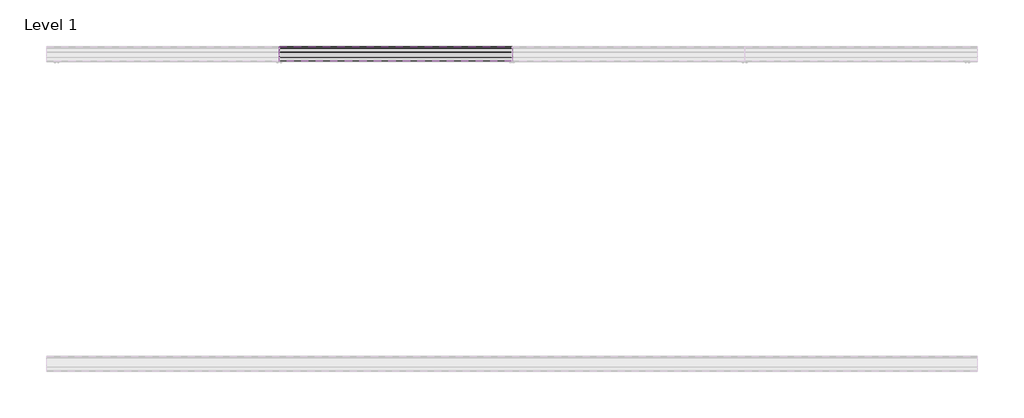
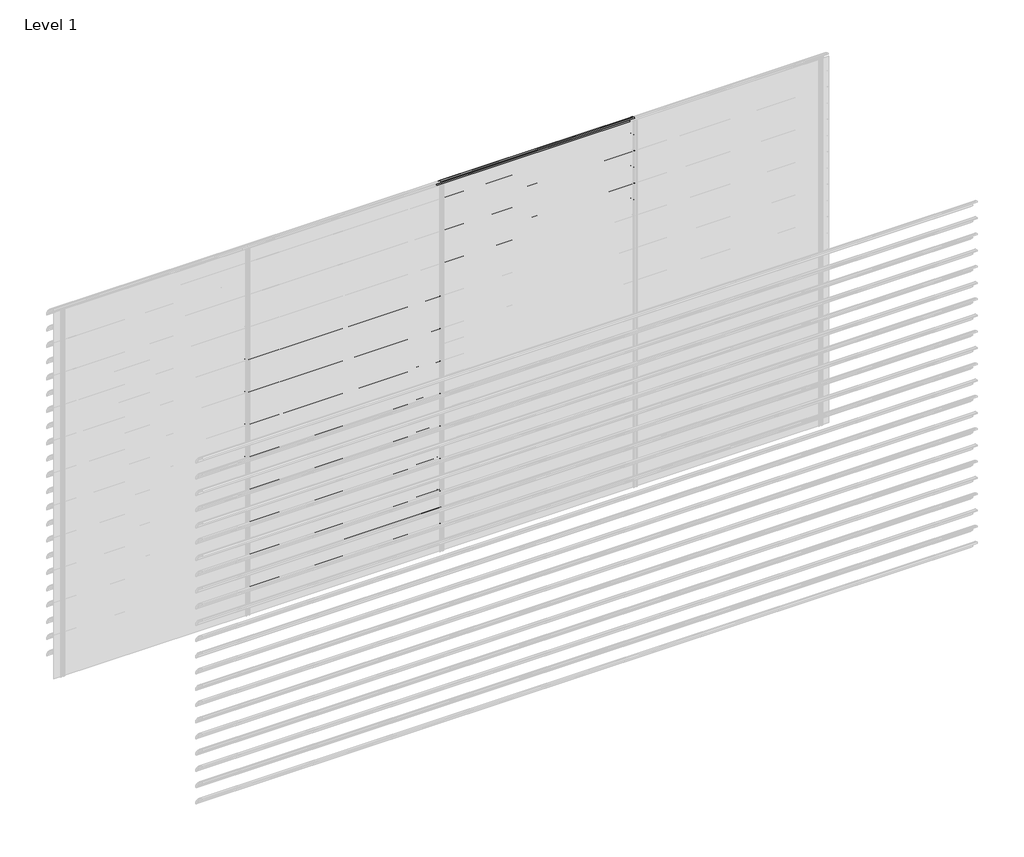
# One storey, part 55 of 57: 21 proxies.
"""IFC4 building model written with IfcOpenShell, lengths in millimetres."""

from ifc_helpers import new_model, si_unit, point, frame, frame_2d, origin, place, context, project, spatial, polyline, circle_curve, trimmed, segment, composite_curve, outline, extrude, element, save

model = new_model("IFC4")

# Units and contexts
model_context = context("Model", 3, world=origin())
ifc_project = project(units=[si_unit("LENGTHUNIT", "METRE", prefix="MILLI")], contexts=[model_context])

# Site, building, storey
site = spatial("IfcSite", under=ifc_project)
building = spatial("IfcBuilding", under=site)
storey = spatial("IfcBuildingStorey", under=building, Name="Level 1", Elevation=0.0)

# Proxies
placement = place(None, origin())
element("IfcBuildingElementProxy", 1, Name="Wall Sweeps", at=placement, inside=storey, context=model_context, shape_type="SweptSolid", body=[
    extrude(outline(composite_curve([segment(trimmed(circle_curve(frame_2d((6.2177474, 2085.4913792)), 4.2177474), [point((10.3014394, 2086.5462976))], [point((6.2177474, 2089.7091266))], False, "CARTESIAN"), True, "CONTINUOUS"), segment(trimmed(circle_curve(frame_2d((-18.7150834, 1987.2536312)), 105.4456002), [point((6.2177474, 2089.7091266))], [point((28.2085702, 2081.6832099))], False, "CARTESIAN"), True, "CONTINUOUS"), segment(trimmed(circle_curve(frame_2d((-61.7199745, 1933.0352476)), 173.7335887), [point((28.2085702, 2081.6832099))], [point((86.9279879, 2022.9637922))], False, "CARTESIAN"), True, "CONTINUOUS"), segment(trimmed(circle_curve(frame_2d((-4.9297178, 1971.1860314)), 105.4456002), [point((86.9279879, 2022.9637922))], [point((96.3750384, 2000.4455765))], False, "CARTESIAN"), True, "CONTINUOUS"), segment(trimmed(circle_curve(frame_2d((92.190263, 1999.3307305)), 4.3307305), [point((96.3750384, 2000.4455765))], [point((90.9230804, 1995.189538))], False, "CARTESIAN"), True, "CONTINUOUS"), segment(polyline([(90.9230804, 1995.189538), (65.2598016, 2019.9722783)]), True, "CONTINUOUS"), segment(trimmed(circle_curve(frame_2d((68.6120426, 2022.2977626)), 4.079877), [point((65.2598016, 2019.9722783))], [point((69.2689403, 2026.3244091))], False, "CARTESIAN"), True, "CONTINUOUS"), segment(trimmed(circle_curve(frame_2d((-14.6665585, 2004.2544323)), 86.7885467), [point((69.2689403, 2026.3244091))], [point((57.6971649, 2052.1683485))], True, "CARTESIAN"), True, "CONTINUOUS"), segment(polyline([(57.6971649, 2052.1683485), (59.2769901, 2054.9046861)]), True, "CONTINUOUS"), segment(trimmed(circle_curve(frame_2d((-61.7199745, 1933.0352476)), 171.7335887), [point((59.2769901, 2054.9046861))], [point((27.2444128, 2079.9289618))], True, "CARTESIAN"), True, "CONTINUOUS"), segment(trimmed(circle_curve(frame_2d((-18.7150834, 1987.2536312)), 103.4456002), [point((27.2444128, 2079.9289618))], [point((10.3014394, 2086.5462976))], True, "CARTESIAN"), True, "CONTINUOUS")], self_intersect=False)), frame((1500.0, 0.0, 0.0), z_axis=(1.0, 0.0, 0.0), x_axis=(0.0, 1.0, 0.0)), (0.0, 0.0, 1.0), 1500.0),
])
element("IfcBuildingElementProxy", 2, Name="Wall Sweeps", at=placement, inside=storey, context=model_context, shape_type="SweptSolid", body=[
    extrude(outline(composite_curve([segment(trimmed(circle_curve(frame_2d((6.2177474, 1952.4913792)), 4.2177474), [point((10.3014394, 1953.5462976))], [point((6.2177474, 1956.7091266))], False, "CARTESIAN"), True, "CONTINUOUS"), segment(trimmed(circle_curve(frame_2d((-18.7150834, 1854.2536312)), 105.4456002), [point((6.2177474, 1956.7091266))], [point((28.2085702, 1948.6832099))], False, "CARTESIAN"), True, "CONTINUOUS"), segment(trimmed(circle_curve(frame_2d((-61.7199745, 1800.0352476)), 173.7335887), [point((28.2085702, 1948.6832099))], [point((86.9279879, 1889.9637922))], False, "CARTESIAN"), True, "CONTINUOUS"), segment(trimmed(circle_curve(frame_2d((-4.9297178, 1838.1860314)), 105.4456002), [point((86.9279879, 1889.9637922))], [point((96.3750384, 1867.4455765))], False, "CARTESIAN"), True, "CONTINUOUS"), segment(trimmed(circle_curve(frame_2d((92.190263, 1866.3307305)), 4.3307305), [point((96.3750384, 1867.4455765))], [point((90.9230804, 1862.189538))], False, "CARTESIAN"), True, "CONTINUOUS"), segment(polyline([(90.9230804, 1862.189538), (65.2598016, 1886.9722783)]), True, "CONTINUOUS"), segment(trimmed(circle_curve(frame_2d((68.6120426, 1889.2977626)), 4.079877), [point((65.2598016, 1886.9722783))], [point((69.2689403, 1893.3244091))], False, "CARTESIAN"), True, "CONTINUOUS"), segment(trimmed(circle_curve(frame_2d((-14.6665585, 1871.2544323)), 86.7885467), [point((69.2689403, 1893.3244091))], [point((57.6971649, 1919.1683485))], True, "CARTESIAN"), True, "CONTINUOUS"), segment(polyline([(57.6971649, 1919.1683485), (59.2769901, 1921.9046861)]), True, "CONTINUOUS"), segment(trimmed(circle_curve(frame_2d((-61.7199745, 1800.0352476)), 171.7335887), [point((59.2769901, 1921.9046861))], [point((27.2444128, 1946.9289618))], True, "CARTESIAN"), True, "CONTINUOUS"), segment(trimmed(circle_curve(frame_2d((-18.7150834, 1854.2536312)), 103.4456002), [point((27.2444128, 1946.9289618))], [point((10.3014394, 1953.5462976))], True, "CARTESIAN"), True, "CONTINUOUS")], self_intersect=False)), frame((1500.0, 0.0, 0.0), z_axis=(1.0, 0.0, 0.0), x_axis=(0.0, 1.0, 0.0)), (0.0, 0.0, 1.0), 1500.0),
])
element("IfcBuildingElementProxy", 3, Name="Wall Sweeps", at=placement, inside=storey, context=model_context, shape_type="SweptSolid", body=[
    extrude(outline(composite_curve([segment(trimmed(circle_curve(frame_2d((6.2177474, 1819.4913792)), 4.2177474), [point((10.3014394, 1820.5462976))], [point((6.2177474, 1823.7091266))], False, "CARTESIAN"), True, "CONTINUOUS"), segment(trimmed(circle_curve(frame_2d((-18.7150834, 1721.2536312)), 105.4456002), [point((6.2177474, 1823.7091266))], [point((28.2085702, 1815.6832099))], False, "CARTESIAN"), True, "CONTINUOUS"), segment(trimmed(circle_curve(frame_2d((-61.7199745, 1667.0352476)), 173.7335887), [point((28.2085702, 1815.6832099))], [point((86.9279879, 1756.9637922))], False, "CARTESIAN"), True, "CONTINUOUS"), segment(trimmed(circle_curve(frame_2d((-4.9297178, 1705.1860314)), 105.4456002), [point((86.9279879, 1756.9637922))], [point((96.3750384, 1734.4455765))], False, "CARTESIAN"), True, "CONTINUOUS"), segment(trimmed(circle_curve(frame_2d((92.190263, 1733.3307305)), 4.3307305), [point((96.3750384, 1734.4455765))], [point((90.9230804, 1729.189538))], False, "CARTESIAN"), True, "CONTINUOUS"), segment(polyline([(90.9230804, 1729.189538), (65.2598016, 1753.9722783)]), True, "CONTINUOUS"), segment(trimmed(circle_curve(frame_2d((68.6120426, 1756.2977626)), 4.079877), [point((65.2598016, 1753.9722783))], [point((69.2689403, 1760.3244091))], False, "CARTESIAN"), True, "CONTINUOUS"), segment(trimmed(circle_curve(frame_2d((-14.6665585, 1738.2544323)), 86.7885467), [point((69.2689403, 1760.3244091))], [point((57.6971649, 1786.1683485))], True, "CARTESIAN"), True, "CONTINUOUS"), segment(polyline([(57.6971649, 1786.1683485), (59.2769901, 1788.9046861)]), True, "CONTINUOUS"), segment(trimmed(circle_curve(frame_2d((-61.7199745, 1667.0352476)), 171.7335887), [point((59.2769901, 1788.9046861))], [point((27.2444128, 1813.9289618))], True, "CARTESIAN"), True, "CONTINUOUS"), segment(trimmed(circle_curve(frame_2d((-18.7150834, 1721.2536312)), 103.4456002), [point((27.2444128, 1813.9289618))], [point((10.3014394, 1820.5462976))], True, "CARTESIAN"), True, "CONTINUOUS")], self_intersect=False)), frame((1500.0, 0.0, 0.0), z_axis=(1.0, 0.0, 0.0), x_axis=(0.0, 1.0, 0.0)), (0.0, 0.0, 1.0), 1500.0),
])
element("IfcBuildingElementProxy", 4, Name="Wall Sweeps", at=placement, inside=storey, context=model_context, shape_type="SweptSolid", body=[
    extrude(outline(composite_curve([segment(trimmed(circle_curve(frame_2d((6.2177474, 1686.4913792)), 4.2177474), [point((10.3014394, 1687.5462976))], [point((6.2177474, 1690.7091266))], False, "CARTESIAN"), True, "CONTINUOUS"), segment(trimmed(circle_curve(frame_2d((-18.7150834, 1588.2536312)), 105.4456002), [point((6.2177474, 1690.7091266))], [point((28.2085702, 1682.6832099))], False, "CARTESIAN"), True, "CONTINUOUS"), segment(trimmed(circle_curve(frame_2d((-61.7199745, 1534.0352476)), 173.7335887), [point((28.2085702, 1682.6832099))], [point((86.9279879, 1623.9637922))], False, "CARTESIAN"), True, "CONTINUOUS"), segment(trimmed(circle_curve(frame_2d((-4.9297178, 1572.1860314)), 105.4456002), [point((86.9279879, 1623.9637922))], [point((96.3750384, 1601.4455765))], False, "CARTESIAN"), True, "CONTINUOUS"), segment(trimmed(circle_curve(frame_2d((92.190263, 1600.3307305)), 4.3307305), [point((96.3750384, 1601.4455765))], [point((90.9230804, 1596.189538))], False, "CARTESIAN"), True, "CONTINUOUS"), segment(polyline([(90.9230804, 1596.189538), (65.2598016, 1620.9722783)]), True, "CONTINUOUS"), segment(trimmed(circle_curve(frame_2d((68.6120426, 1623.2977626)), 4.079877), [point((65.2598016, 1620.9722783))], [point((69.2689403, 1627.3244091))], False, "CARTESIAN"), True, "CONTINUOUS"), segment(trimmed(circle_curve(frame_2d((-14.6665585, 1605.2544323)), 86.7885467), [point((69.2689403, 1627.3244091))], [point((57.6971649, 1653.1683485))], True, "CARTESIAN"), True, "CONTINUOUS"), segment(polyline([(57.6971649, 1653.1683485), (59.2769901, 1655.9046861)]), True, "CONTINUOUS"), segment(trimmed(circle_curve(frame_2d((-61.7199745, 1534.0352476)), 171.7335887), [point((59.2769901, 1655.9046861))], [point((27.2444128, 1680.9289618))], True, "CARTESIAN"), True, "CONTINUOUS"), segment(trimmed(circle_curve(frame_2d((-18.7150834, 1588.2536312)), 103.4456002), [point((27.2444128, 1680.9289618))], [point((10.3014394, 1687.5462976))], True, "CARTESIAN"), True, "CONTINUOUS")], self_intersect=False)), frame((1500.0, 0.0, 0.0), z_axis=(1.0, 0.0, 0.0), x_axis=(0.0, 1.0, 0.0)), (0.0, 0.0, 1.0), 1500.0),
])
element("IfcBuildingElementProxy", 5, Name="Wall Sweeps", at=placement, inside=storey, context=model_context, shape_type="SweptSolid", body=[
    extrude(outline(composite_curve([segment(trimmed(circle_curve(frame_2d((6.2177474, 1553.4913792)), 4.2177474), [point((10.3014394, 1554.5462976))], [point((6.2177474, 1557.7091266))], False, "CARTESIAN"), True, "CONTINUOUS"), segment(trimmed(circle_curve(frame_2d((-18.7150834, 1455.2536312)), 105.4456002), [point((6.2177474, 1557.7091266))], [point((28.2085702, 1549.6832099))], False, "CARTESIAN"), True, "CONTINUOUS"), segment(trimmed(circle_curve(frame_2d((-61.7199745, 1401.0352476)), 173.7335887), [point((28.2085702, 1549.6832099))], [point((86.9279879, 1490.9637922))], False, "CARTESIAN"), True, "CONTINUOUS"), segment(trimmed(circle_curve(frame_2d((-4.9297178, 1439.1860314)), 105.4456002), [point((86.9279879, 1490.9637922))], [point((96.3750384, 1468.4455765))], False, "CARTESIAN"), True, "CONTINUOUS"), segment(trimmed(circle_curve(frame_2d((92.190263, 1467.3307305)), 4.3307305), [point((96.3750384, 1468.4455765))], [point((90.9230804, 1463.189538))], False, "CARTESIAN"), True, "CONTINUOUS"), segment(polyline([(90.9230804, 1463.189538), (65.2598016, 1487.9722783)]), True, "CONTINUOUS"), segment(trimmed(circle_curve(frame_2d((68.6120426, 1490.2977626)), 4.079877), [point((65.2598016, 1487.9722783))], [point((69.2689403, 1494.3244091))], False, "CARTESIAN"), True, "CONTINUOUS"), segment(trimmed(circle_curve(frame_2d((-14.6665585, 1472.2544323)), 86.7885467), [point((69.2689403, 1494.3244091))], [point((57.6971649, 1520.1683485))], True, "CARTESIAN"), True, "CONTINUOUS"), segment(polyline([(57.6971649, 1520.1683485), (59.2769901, 1522.9046861)]), True, "CONTINUOUS"), segment(trimmed(circle_curve(frame_2d((-61.7199745, 1401.0352476)), 171.7335887), [point((59.2769901, 1522.9046861))], [point((27.2444128, 1547.9289618))], True, "CARTESIAN"), True, "CONTINUOUS"), segment(trimmed(circle_curve(frame_2d((-18.7150834, 1455.2536312)), 103.4456002), [point((27.2444128, 1547.9289618))], [point((10.3014394, 1554.5462976))], True, "CARTESIAN"), True, "CONTINUOUS")], self_intersect=False)), frame((1500.0, 0.0, 0.0), z_axis=(1.0, 0.0, 0.0), x_axis=(0.0, 1.0, 0.0)), (0.0, 0.0, 1.0), 1500.0),
])
element("IfcBuildingElementProxy", 6, Name="Wall Sweeps", at=placement, inside=storey, context=model_context, shape_type="SweptSolid", body=[
    extrude(outline(composite_curve([segment(trimmed(circle_curve(frame_2d((6.2177474, 1420.4913792)), 4.2177474), [point((10.3014394, 1421.5462976))], [point((6.2177474, 1424.7091266))], False, "CARTESIAN"), True, "CONTINUOUS"), segment(trimmed(circle_curve(frame_2d((-18.7150834, 1322.2536312)), 105.4456002), [point((6.2177474, 1424.7091266))], [point((28.2085702, 1416.6832099))], False, "CARTESIAN"), True, "CONTINUOUS"), segment(trimmed(circle_curve(frame_2d((-61.7199745, 1268.0352476)), 173.7335887), [point((28.2085702, 1416.6832099))], [point((86.9279879, 1357.9637922))], False, "CARTESIAN"), True, "CONTINUOUS"), segment(trimmed(circle_curve(frame_2d((-4.9297178, 1306.1860314)), 105.4456002), [point((86.9279879, 1357.9637922))], [point((96.3750384, 1335.4455765))], False, "CARTESIAN"), True, "CONTINUOUS"), segment(trimmed(circle_curve(frame_2d((92.190263, 1334.3307305)), 4.3307305), [point((96.3750384, 1335.4455765))], [point((90.9230804, 1330.189538))], False, "CARTESIAN"), True, "CONTINUOUS"), segment(polyline([(90.9230804, 1330.189538), (65.2598016, 1354.9722783)]), True, "CONTINUOUS"), segment(trimmed(circle_curve(frame_2d((68.6120426, 1357.2977626)), 4.079877), [point((65.2598016, 1354.9722783))], [point((69.2689403, 1361.3244091))], False, "CARTESIAN"), True, "CONTINUOUS"), segment(trimmed(circle_curve(frame_2d((-14.6665585, 1339.2544323)), 86.7885467), [point((69.2689403, 1361.3244091))], [point((57.6971649, 1387.1683485))], True, "CARTESIAN"), True, "CONTINUOUS"), segment(polyline([(57.6971649, 1387.1683485), (59.2769901, 1389.9046861)]), True, "CONTINUOUS"), segment(trimmed(circle_curve(frame_2d((-61.7199745, 1268.0352476)), 171.7335887), [point((59.2769901, 1389.9046861))], [point((27.2444128, 1414.9289618))], True, "CARTESIAN"), True, "CONTINUOUS"), segment(trimmed(circle_curve(frame_2d((-18.7150834, 1322.2536312)), 103.4456002), [point((27.2444128, 1414.9289618))], [point((10.3014394, 1421.5462976))], True, "CARTESIAN"), True, "CONTINUOUS")], self_intersect=False)), frame((1500.0, 0.0, 0.0), z_axis=(1.0, 0.0, 0.0), x_axis=(0.0, 1.0, 0.0)), (0.0, 0.0, 1.0), 1500.0),
])
element("IfcBuildingElementProxy", 7, Name="Wall Sweeps", at=placement, inside=storey, context=model_context, shape_type="SweptSolid", body=[
    extrude(outline(composite_curve([segment(trimmed(circle_curve(frame_2d((6.2177474, 1287.4913792)), 4.2177474), [point((10.3014394, 1288.5462976))], [point((6.2177474, 1291.7091266))], False, "CARTESIAN"), True, "CONTINUOUS"), segment(trimmed(circle_curve(frame_2d((-18.7150834, 1189.2536312)), 105.4456002), [point((6.2177474, 1291.7091266))], [point((28.2085702, 1283.6832099))], False, "CARTESIAN"), True, "CONTINUOUS"), segment(trimmed(circle_curve(frame_2d((-61.7199745, 1135.0352476)), 173.7335887), [point((28.2085702, 1283.6832099))], [point((86.9279879, 1224.9637922))], False, "CARTESIAN"), True, "CONTINUOUS"), segment(trimmed(circle_curve(frame_2d((-4.9297178, 1173.1860314)), 105.4456002), [point((86.9279879, 1224.9637922))], [point((96.3750384, 1202.4455765))], False, "CARTESIAN"), True, "CONTINUOUS"), segment(trimmed(circle_curve(frame_2d((92.190263, 1201.3307305)), 4.3307305), [point((96.3750384, 1202.4455765))], [point((90.9230804, 1197.189538))], False, "CARTESIAN"), True, "CONTINUOUS"), segment(polyline([(90.9230804, 1197.189538), (65.2598016, 1221.9722783)]), True, "CONTINUOUS"), segment(trimmed(circle_curve(frame_2d((68.6120426, 1224.2977626)), 4.079877), [point((65.2598016, 1221.9722783))], [point((69.2689403, 1228.3244091))], False, "CARTESIAN"), True, "CONTINUOUS"), segment(trimmed(circle_curve(frame_2d((-14.6665585, 1206.2544323)), 86.7885467), [point((69.2689403, 1228.3244091))], [point((57.6971649, 1254.1683485))], True, "CARTESIAN"), True, "CONTINUOUS"), segment(polyline([(57.6971649, 1254.1683485), (59.2769901, 1256.9046861)]), True, "CONTINUOUS"), segment(trimmed(circle_curve(frame_2d((-61.7199745, 1135.0352476)), 171.7335887), [point((59.2769901, 1256.9046861))], [point((27.2444128, 1281.9289618))], True, "CARTESIAN"), True, "CONTINUOUS"), segment(trimmed(circle_curve(frame_2d((-18.7150834, 1189.2536312)), 103.4456002), [point((27.2444128, 1281.9289618))], [point((10.3014394, 1288.5462976))], True, "CARTESIAN"), True, "CONTINUOUS")], self_intersect=False)), frame((1500.0, 0.0, 0.0), z_axis=(1.0, 0.0, 0.0), x_axis=(0.0, 1.0, 0.0)), (0.0, 0.0, 1.0), 1500.0),
])
element("IfcBuildingElementProxy", 8, Name="Wall Sweeps", at=placement, inside=storey, context=model_context, shape_type="SweptSolid", body=[
    extrude(outline(composite_curve([segment(trimmed(circle_curve(frame_2d((6.2177474, 1154.4913792)), 4.2177474), [point((10.3014394, 1155.5462976))], [point((6.2177474, 1158.7091266))], False, "CARTESIAN"), True, "CONTINUOUS"), segment(trimmed(circle_curve(frame_2d((-18.7150834, 1056.2536312)), 105.4456002), [point((6.2177474, 1158.7091266))], [point((28.2085702, 1150.6832099))], False, "CARTESIAN"), True, "CONTINUOUS"), segment(trimmed(circle_curve(frame_2d((-61.7199745, 1002.0352476)), 173.7335887), [point((28.2085702, 1150.6832099))], [point((86.9279879, 1091.9637922))], False, "CARTESIAN"), True, "CONTINUOUS"), segment(trimmed(circle_curve(frame_2d((-4.9297178, 1040.1860314)), 105.4456002), [point((86.9279879, 1091.9637922))], [point((96.3750384, 1069.4455765))], False, "CARTESIAN"), True, "CONTINUOUS"), segment(trimmed(circle_curve(frame_2d((92.190263, 1068.3307305)), 4.3307305), [point((96.3750384, 1069.4455765))], [point((90.9230804, 1064.189538))], False, "CARTESIAN"), True, "CONTINUOUS"), segment(polyline([(90.9230804, 1064.189538), (65.2598016, 1088.9722783)]), True, "CONTINUOUS"), segment(trimmed(circle_curve(frame_2d((68.6120426, 1091.2977626)), 4.079877), [point((65.2598016, 1088.9722783))], [point((69.2689403, 1095.3244091))], False, "CARTESIAN"), True, "CONTINUOUS"), segment(trimmed(circle_curve(frame_2d((-14.6665585, 1073.2544323)), 86.7885467), [point((69.2689403, 1095.3244091))], [point((57.6971649, 1121.1683485))], True, "CARTESIAN"), True, "CONTINUOUS"), segment(polyline([(57.6971649, 1121.1683485), (59.2769901, 1123.9046861)]), True, "CONTINUOUS"), segment(trimmed(circle_curve(frame_2d((-61.7199745, 1002.0352476)), 171.7335887), [point((59.2769901, 1123.9046861))], [point((27.2444128, 1148.9289618))], True, "CARTESIAN"), True, "CONTINUOUS"), segment(trimmed(circle_curve(frame_2d((-18.7150834, 1056.2536312)), 103.4456002), [point((27.2444128, 1148.9289618))], [point((10.3014394, 1155.5462976))], True, "CARTESIAN"), True, "CONTINUOUS")], self_intersect=False)), frame((1500.0, 0.0, 0.0), z_axis=(1.0, 0.0, 0.0), x_axis=(0.0, 1.0, 0.0)), (0.0, 0.0, 1.0), 1500.0),
])
element("IfcBuildingElementProxy", 9, Name="Wall Sweeps", at=placement, inside=storey, context=model_context, shape_type="SweptSolid", body=[
    extrude(outline(composite_curve([segment(trimmed(circle_curve(frame_2d((6.2177474, 1021.4913792)), 4.2177474), [point((10.3014394, 1022.5462976))], [point((6.2177474, 1025.7091266))], False, "CARTESIAN"), True, "CONTINUOUS"), segment(trimmed(circle_curve(frame_2d((-18.7150834, 923.2536312)), 105.4456002), [point((6.2177474, 1025.7091266))], [point((28.2085702, 1017.6832099))], False, "CARTESIAN"), True, "CONTINUOUS"), segment(trimmed(circle_curve(frame_2d((-61.7199745, 869.0352476)), 173.7335887), [point((28.2085702, 1017.6832099))], [point((86.9279879, 958.9637922))], False, "CARTESIAN"), True, "CONTINUOUS"), segment(trimmed(circle_curve(frame_2d((-4.9297178, 907.1860314)), 105.4456002), [point((86.9279879, 958.9637922))], [point((96.3750384, 936.4455765))], False, "CARTESIAN"), True, "CONTINUOUS"), segment(trimmed(circle_curve(frame_2d((92.190263, 935.3307305)), 4.3307305), [point((96.3750384, 936.4455765))], [point((90.9230804, 931.189538))], False, "CARTESIAN"), True, "CONTINUOUS"), segment(polyline([(90.9230804, 931.189538), (65.2598016, 955.9722783)]), True, "CONTINUOUS"), segment(trimmed(circle_curve(frame_2d((68.6120426, 958.2977626)), 4.079877), [point((65.2598016, 955.9722783))], [point((69.2689403, 962.3244091))], False, "CARTESIAN"), True, "CONTINUOUS"), segment(trimmed(circle_curve(frame_2d((-14.6665585, 940.2544323)), 86.7885467), [point((69.2689403, 962.3244091))], [point((57.6971649, 988.1683485))], True, "CARTESIAN"), True, "CONTINUOUS"), segment(polyline([(57.6971649, 988.1683485), (59.2769901, 990.9046861)]), True, "CONTINUOUS"), segment(trimmed(circle_curve(frame_2d((-61.7199745, 869.0352476)), 171.7335887), [point((59.2769901, 990.9046861))], [point((27.2444128, 1015.9289618))], True, "CARTESIAN"), True, "CONTINUOUS"), segment(trimmed(circle_curve(frame_2d((-18.7150834, 923.2536312)), 103.4456002), [point((27.2444128, 1015.9289618))], [point((10.3014394, 1022.5462976))], True, "CARTESIAN"), True, "CONTINUOUS")], self_intersect=False)), frame((1500.0, 0.0, 0.0), z_axis=(1.0, 0.0, 0.0), x_axis=(0.0, 1.0, 0.0)), (0.0, 0.0, 1.0), 1500.0),
])
element("IfcBuildingElementProxy", 10, Name="Wall Sweeps", at=placement, inside=storey, context=model_context, shape_type="SweptSolid", body=[
    extrude(outline(composite_curve([segment(trimmed(circle_curve(frame_2d((6.2177474, 888.4913792)), 4.2177474), [point((10.3014394, 889.5462976))], [point((6.2177474, 892.7091266))], False, "CARTESIAN"), True, "CONTINUOUS"), segment(trimmed(circle_curve(frame_2d((-18.7150834, 790.2536312)), 105.4456002), [point((6.2177474, 892.7091266))], [point((28.2085702, 884.6832099))], False, "CARTESIAN"), True, "CONTINUOUS"), segment(trimmed(circle_curve(frame_2d((-61.7199745, 736.0352476)), 173.7335887), [point((28.2085702, 884.6832099))], [point((86.9279879, 825.9637922))], False, "CARTESIAN"), True, "CONTINUOUS"), segment(trimmed(circle_curve(frame_2d((-4.9297178, 774.1860314)), 105.4456002), [point((86.9279879, 825.9637922))], [point((96.3750384, 803.4455765))], False, "CARTESIAN"), True, "CONTINUOUS"), segment(trimmed(circle_curve(frame_2d((92.190263, 802.3307305)), 4.3307305), [point((96.3750384, 803.4455765))], [point((90.9230804, 798.189538))], False, "CARTESIAN"), True, "CONTINUOUS"), segment(polyline([(90.9230804, 798.189538), (65.2598016, 822.9722783)]), True, "CONTINUOUS"), segment(trimmed(circle_curve(frame_2d((68.6120426, 825.2977626)), 4.079877), [point((65.2598016, 822.9722783))], [point((69.2689403, 829.3244091))], False, "CARTESIAN"), True, "CONTINUOUS"), segment(trimmed(circle_curve(frame_2d((-14.6665585, 807.2544323)), 86.7885467), [point((69.2689403, 829.3244091))], [point((57.6971649, 855.1683485))], True, "CARTESIAN"), True, "CONTINUOUS"), segment(polyline([(57.6971649, 855.1683485), (59.2769901, 857.9046861)]), True, "CONTINUOUS"), segment(trimmed(circle_curve(frame_2d((-61.7199745, 736.0352476)), 171.7335887), [point((59.2769901, 857.9046861))], [point((27.2444128, 882.9289618))], True, "CARTESIAN"), True, "CONTINUOUS"), segment(trimmed(circle_curve(frame_2d((-18.7150834, 790.2536312)), 103.4456002), [point((27.2444128, 882.9289618))], [point((10.3014394, 889.5462976))], True, "CARTESIAN"), True, "CONTINUOUS")], self_intersect=False)), frame((1500.0, 0.0, 0.0), z_axis=(1.0, 0.0, 0.0), x_axis=(0.0, 1.0, 0.0)), (0.0, 0.0, 1.0), 1500.0),
])
element("IfcBuildingElementProxy", 11, Name="Wall Sweeps", at=placement, inside=storey, context=model_context, shape_type="SweptSolid", body=[
    extrude(outline(composite_curve([segment(trimmed(circle_curve(frame_2d((6.2177474, 755.4913792)), 4.2177474), [point((10.3014394, 756.5462976))], [point((6.2177474, 759.7091266))], False, "CARTESIAN"), True, "CONTINUOUS"), segment(trimmed(circle_curve(frame_2d((-18.7150834, 657.2536312)), 105.4456002), [point((6.2177474, 759.7091266))], [point((28.2085702, 751.6832099))], False, "CARTESIAN"), True, "CONTINUOUS"), segment(trimmed(circle_curve(frame_2d((-61.7199745, 603.0352476)), 173.7335887), [point((28.2085702, 751.6832099))], [point((86.9279879, 692.9637922))], False, "CARTESIAN"), True, "CONTINUOUS"), segment(trimmed(circle_curve(frame_2d((-4.9297178, 641.1860314)), 105.4456002), [point((86.9279879, 692.9637922))], [point((96.3750384, 670.4455765))], False, "CARTESIAN"), True, "CONTINUOUS"), segment(trimmed(circle_curve(frame_2d((92.190263, 669.3307305)), 4.3307305), [point((96.3750384, 670.4455765))], [point((90.9230804, 665.189538))], False, "CARTESIAN"), True, "CONTINUOUS"), segment(polyline([(90.9230804, 665.189538), (65.2598016, 689.9722783)]), True, "CONTINUOUS"), segment(trimmed(circle_curve(frame_2d((68.6120426, 692.2977626)), 4.079877), [point((65.2598016, 689.9722783))], [point((69.2689403, 696.3244091))], False, "CARTESIAN"), True, "CONTINUOUS"), segment(trimmed(circle_curve(frame_2d((-14.6665585, 674.2544323)), 86.7885467), [point((69.2689403, 696.3244091))], [point((57.6971649, 722.1683485))], True, "CARTESIAN"), True, "CONTINUOUS"), segment(polyline([(57.6971649, 722.1683485), (59.2769901, 724.9046861)]), True, "CONTINUOUS"), segment(trimmed(circle_curve(frame_2d((-61.7199745, 603.0352476)), 171.7335887), [point((59.2769901, 724.9046861))], [point((27.2444128, 749.9289618))], True, "CARTESIAN"), True, "CONTINUOUS"), segment(trimmed(circle_curve(frame_2d((-18.7150834, 657.2536312)), 103.4456002), [point((27.2444128, 749.9289618))], [point((10.3014394, 756.5462976))], True, "CARTESIAN"), True, "CONTINUOUS")], self_intersect=False)), frame((1500.0, 0.0, 0.0), z_axis=(1.0, 0.0, 0.0), x_axis=(0.0, 1.0, 0.0)), (0.0, 0.0, 1.0), 1500.0),
])
element("IfcBuildingElementProxy", 12, Name="Wall Sweeps", at=placement, inside=storey, context=model_context, shape_type="SweptSolid", body=[
    extrude(outline(composite_curve([segment(trimmed(circle_curve(frame_2d((6.2177474, 622.4913792)), 4.2177474), [point((10.3014394, 623.5462976))], [point((6.2177474, 626.7091266))], False, "CARTESIAN"), True, "CONTINUOUS"), segment(trimmed(circle_curve(frame_2d((-18.7150834, 524.2536312)), 105.4456002), [point((6.2177474, 626.7091266))], [point((28.2085702, 618.6832099))], False, "CARTESIAN"), True, "CONTINUOUS"), segment(trimmed(circle_curve(frame_2d((-61.7199745, 470.0352476)), 173.7335887), [point((28.2085702, 618.6832099))], [point((86.9279879, 559.9637922))], False, "CARTESIAN"), True, "CONTINUOUS"), segment(trimmed(circle_curve(frame_2d((-4.9297178, 508.1860314)), 105.4456002), [point((86.9279879, 559.9637922))], [point((96.3750384, 537.4455765))], False, "CARTESIAN"), True, "CONTINUOUS"), segment(trimmed(circle_curve(frame_2d((92.190263, 536.3307305)), 4.3307305), [point((96.3750384, 537.4455765))], [point((90.9230804, 532.189538))], False, "CARTESIAN"), True, "CONTINUOUS"), segment(polyline([(90.9230804, 532.189538), (65.2598016, 556.9722783)]), True, "CONTINUOUS"), segment(trimmed(circle_curve(frame_2d((68.6120426, 559.2977626)), 4.079877), [point((65.2598016, 556.9722783))], [point((69.2689403, 563.3244091))], False, "CARTESIAN"), True, "CONTINUOUS"), segment(trimmed(circle_curve(frame_2d((-14.6665585, 541.2544323)), 86.7885467), [point((69.2689403, 563.3244091))], [point((57.6971649, 589.1683485))], True, "CARTESIAN"), True, "CONTINUOUS"), segment(polyline([(57.6971649, 589.1683485), (59.2769901, 591.9046861)]), True, "CONTINUOUS"), segment(trimmed(circle_curve(frame_2d((-61.7199745, 470.0352476)), 171.7335887), [point((59.2769901, 591.9046861))], [point((27.2444128, 616.9289618))], True, "CARTESIAN"), True, "CONTINUOUS"), segment(trimmed(circle_curve(frame_2d((-18.7150834, 524.2536312)), 103.4456002), [point((27.2444128, 616.9289618))], [point((10.3014394, 623.5462976))], True, "CARTESIAN"), True, "CONTINUOUS")], self_intersect=False)), frame((1500.0, 0.0, 0.0), z_axis=(1.0, 0.0, 0.0), x_axis=(0.0, 1.0, 0.0)), (0.0, 0.0, 1.0), 1500.0),
])
element("IfcBuildingElementProxy", 13, Name="Wall Sweeps", at=placement, inside=storey, context=model_context, shape_type="SweptSolid", body=[
    extrude(outline(composite_curve([segment(trimmed(circle_curve(frame_2d((6.2177474, 489.4913792)), 4.2177474), [point((10.3014394, 490.5462976))], [point((6.2177474, 493.7091266))], False, "CARTESIAN"), True, "CONTINUOUS"), segment(trimmed(circle_curve(frame_2d((-18.7150834, 391.2536312)), 105.4456002), [point((6.2177474, 493.7091266))], [point((28.2085702, 485.6832099))], False, "CARTESIAN"), True, "CONTINUOUS"), segment(trimmed(circle_curve(frame_2d((-61.7199745, 337.0352476)), 173.7335887), [point((28.2085702, 485.6832099))], [point((86.9279879, 426.9637922))], False, "CARTESIAN"), True, "CONTINUOUS"), segment(trimmed(circle_curve(frame_2d((-4.9297178, 375.1860314)), 105.4456002), [point((86.9279879, 426.9637922))], [point((96.3750384, 404.4455765))], False, "CARTESIAN"), True, "CONTINUOUS"), segment(trimmed(circle_curve(frame_2d((92.190263, 403.3307305)), 4.3307305), [point((96.3750384, 404.4455765))], [point((90.9230804, 399.189538))], False, "CARTESIAN"), True, "CONTINUOUS"), segment(polyline([(90.9230804, 399.189538), (65.2598016, 423.9722783)]), True, "CONTINUOUS"), segment(trimmed(circle_curve(frame_2d((68.6120426, 426.2977626)), 4.079877), [point((65.2598016, 423.9722783))], [point((69.2689403, 430.3244091))], False, "CARTESIAN"), True, "CONTINUOUS"), segment(trimmed(circle_curve(frame_2d((-14.6665585, 408.2544323)), 86.7885467), [point((69.2689403, 430.3244091))], [point((57.6971649, 456.1683485))], True, "CARTESIAN"), True, "CONTINUOUS"), segment(polyline([(57.6971649, 456.1683485), (59.2769901, 458.9046861)]), True, "CONTINUOUS"), segment(trimmed(circle_curve(frame_2d((-61.7199745, 337.0352476)), 171.7335887), [point((59.2769901, 458.9046861))], [point((27.2444128, 483.9289618))], True, "CARTESIAN"), True, "CONTINUOUS"), segment(trimmed(circle_curve(frame_2d((-18.7150834, 391.2536312)), 103.4456002), [point((27.2444128, 483.9289618))], [point((10.3014394, 490.5462976))], True, "CARTESIAN"), True, "CONTINUOUS")], self_intersect=False)), frame((1500.0, 0.0, 0.0), z_axis=(1.0, 0.0, 0.0), x_axis=(0.0, 1.0, 0.0)), (0.0, 0.0, 1.0), 1500.0),
])
element("IfcBuildingElementProxy", 14, Name="Wall Sweeps", at=placement, inside=storey, context=model_context, shape_type="SweptSolid", body=[
    extrude(outline(composite_curve([segment(trimmed(circle_curve(frame_2d((6.2177474, 356.4913792)), 4.2177474), [point((10.3014394, 357.5462976))], [point((6.2177474, 360.7091266))], False, "CARTESIAN"), True, "CONTINUOUS"), segment(trimmed(circle_curve(frame_2d((-18.7150834, 258.2536312)), 105.4456002), [point((6.2177474, 360.7091266))], [point((28.2085702, 352.6832099))], False, "CARTESIAN"), True, "CONTINUOUS"), segment(trimmed(circle_curve(frame_2d((-61.7199745, 204.0352476)), 173.7335887), [point((28.2085702, 352.6832099))], [point((86.9279879, 293.9637922))], False, "CARTESIAN"), True, "CONTINUOUS"), segment(trimmed(circle_curve(frame_2d((-4.9297178, 242.1860314)), 105.4456002), [point((86.9279879, 293.9637922))], [point((96.3750384, 271.4455765))], False, "CARTESIAN"), True, "CONTINUOUS"), segment(trimmed(circle_curve(frame_2d((92.190263, 270.3307305)), 4.3307305), [point((96.3750384, 271.4455765))], [point((90.9230804, 266.189538))], False, "CARTESIAN"), True, "CONTINUOUS"), segment(polyline([(90.9230804, 266.189538), (65.2598016, 290.9722783)]), True, "CONTINUOUS"), segment(trimmed(circle_curve(frame_2d((68.6120426, 293.2977626)), 4.079877), [point((65.2598016, 290.9722783))], [point((69.2689403, 297.3244091))], False, "CARTESIAN"), True, "CONTINUOUS"), segment(trimmed(circle_curve(frame_2d((-14.6665585, 275.2544323)), 86.7885467), [point((69.2689403, 297.3244091))], [point((57.6971649, 323.1683485))], True, "CARTESIAN"), True, "CONTINUOUS"), segment(polyline([(57.6971649, 323.1683485), (59.2769901, 325.9046861)]), True, "CONTINUOUS"), segment(trimmed(circle_curve(frame_2d((-61.7199745, 204.0352476)), 171.7335887), [point((59.2769901, 325.9046861))], [point((27.2444128, 350.9289618))], True, "CARTESIAN"), True, "CONTINUOUS"), segment(trimmed(circle_curve(frame_2d((-18.7150834, 258.2536312)), 103.4456002), [point((27.2444128, 350.9289618))], [point((10.3014394, 357.5462976))], True, "CARTESIAN"), True, "CONTINUOUS")], self_intersect=False)), frame((1500.0, 0.0, 0.0), z_axis=(1.0, 0.0, 0.0), x_axis=(0.0, 1.0, 0.0)), (0.0, 0.0, 1.0), 1500.0),
])
element("IfcBuildingElementProxy", 15, Name="Wall Sweeps", at=placement, inside=storey, context=model_context, shape_type="SweptSolid", body=[
    extrude(outline(composite_curve([segment(trimmed(circle_curve(frame_2d((6.2177474, 223.4913792)), 4.2177474), [point((10.3014394, 224.5462976))], [point((6.2177474, 227.7091266))], False, "CARTESIAN"), True, "CONTINUOUS"), segment(trimmed(circle_curve(frame_2d((-18.7150834, 125.2536312)), 105.4456002), [point((6.2177474, 227.7091266))], [point((28.2085702, 219.6832099))], False, "CARTESIAN"), True, "CONTINUOUS"), segment(trimmed(circle_curve(frame_2d((-61.7199745, 71.0352476)), 173.7335887), [point((28.2085702, 219.6832099))], [point((86.9279879, 160.9637922))], False, "CARTESIAN"), True, "CONTINUOUS"), segment(trimmed(circle_curve(frame_2d((-4.9297178, 109.1860314)), 105.4456002), [point((86.9279879, 160.9637922))], [point((96.3750384, 138.4455765))], False, "CARTESIAN"), True, "CONTINUOUS"), segment(trimmed(circle_curve(frame_2d((92.190263, 137.3307305)), 4.3307305), [point((96.3750384, 138.4455765))], [point((90.9230804, 133.189538))], False, "CARTESIAN"), True, "CONTINUOUS"), segment(polyline([(90.9230804, 133.189538), (65.2598016, 157.9722783)]), True, "CONTINUOUS"), segment(trimmed(circle_curve(frame_2d((68.6120426, 160.2977626)), 4.079877), [point((65.2598016, 157.9722783))], [point((69.2689403, 164.3244091))], False, "CARTESIAN"), True, "CONTINUOUS"), segment(trimmed(circle_curve(frame_2d((-14.6665585, 142.2544323)), 86.7885467), [point((69.2689403, 164.3244091))], [point((57.6971649, 190.1683485))], True, "CARTESIAN"), True, "CONTINUOUS"), segment(polyline([(57.6971649, 190.1683485), (59.2769901, 192.9046861)]), True, "CONTINUOUS"), segment(trimmed(circle_curve(frame_2d((-61.7199745, 71.0352476)), 171.7335887), [point((59.2769901, 192.9046861))], [point((27.2444128, 217.9289618))], True, "CARTESIAN"), True, "CONTINUOUS"), segment(trimmed(circle_curve(frame_2d((-18.7150834, 125.2536312)), 103.4456002), [point((27.2444128, 217.9289618))], [point((10.3014394, 224.5462976))], True, "CARTESIAN"), True, "CONTINUOUS")], self_intersect=False)), frame((1500.0, 0.0, 0.0), z_axis=(1.0, 0.0, 0.0), x_axis=(0.0, 1.0, 0.0)), (0.0, 0.0, 1.0), 1500.0),
])
element("IfcBuildingElementProxy", 16, Name="Wall Sweeps", at=placement, inside=storey, context=model_context, shape_type="SweptSolid", body=[
    extrude(outline(composite_curve([segment(trimmed(circle_curve(frame_2d((6.2177474, 3016.4913792)), 4.2177474), [point((10.3014394, 3017.5462976))], [point((6.2177474, 3020.7091266))], False, "CARTESIAN"), True, "CONTINUOUS"), segment(trimmed(circle_curve(frame_2d((-18.7150834, 2918.2536312)), 105.4456002), [point((6.2177474, 3020.7091266))], [point((28.2085702, 3012.6832099))], False, "CARTESIAN"), True, "CONTINUOUS"), segment(trimmed(circle_curve(frame_2d((-61.7199745, 2864.0352476)), 173.7335887), [point((28.2085702, 3012.6832099))], [point((86.9279879, 2953.9637922))], False, "CARTESIAN"), True, "CONTINUOUS"), segment(trimmed(circle_curve(frame_2d((-4.9297178, 2902.1860314)), 105.4456002), [point((86.9279879, 2953.9637922))], [point((96.3750384, 2931.4455765))], False, "CARTESIAN"), True, "CONTINUOUS"), segment(trimmed(circle_curve(frame_2d((92.190263, 2930.3307305)), 4.3307305), [point((96.3750384, 2931.4455765))], [point((90.9230804, 2926.189538))], False, "CARTESIAN"), True, "CONTINUOUS"), segment(polyline([(90.9230804, 2926.189538), (65.2598016, 2950.9722783)]), True, "CONTINUOUS"), segment(trimmed(circle_curve(frame_2d((68.6120426, 2953.2977626)), 4.079877), [point((65.2598016, 2950.9722783))], [point((69.2689403, 2957.3244091))], False, "CARTESIAN"), True, "CONTINUOUS"), segment(trimmed(circle_curve(frame_2d((-14.6665585, 2935.2544323)), 86.7885467), [point((69.2689403, 2957.3244091))], [point((57.6971649, 2983.1683485))], True, "CARTESIAN"), True, "CONTINUOUS"), segment(polyline([(57.6971649, 2983.1683485), (59.2769901, 2985.9046861)]), True, "CONTINUOUS"), segment(trimmed(circle_curve(frame_2d((-61.7199745, 2864.0352476)), 171.7335887), [point((59.2769901, 2985.9046861))], [point((27.2444128, 3010.9289618))], True, "CARTESIAN"), True, "CONTINUOUS"), segment(trimmed(circle_curve(frame_2d((-18.7150834, 2918.2536312)), 103.4456002), [point((27.2444128, 3010.9289618))], [point((10.3014394, 3017.5462976))], True, "CARTESIAN"), True, "CONTINUOUS")], self_intersect=False)), frame((3000.0, 0.0, 0.0), z_axis=(1.0, 0.0, 0.0), x_axis=(0.0, 1.0, 0.0)), (0.0, 0.0, 1.0), 1500.0),
])
element("IfcBuildingElementProxy", 17, Name="Wall Sweeps", at=placement, inside=storey, context=model_context, shape_type="SweptSolid", body=[
    extrude(outline(composite_curve([segment(trimmed(circle_curve(frame_2d((6.2177474, 2883.4913792)), 4.2177474), [point((10.3014394, 2884.5462976))], [point((6.2177474, 2887.7091266))], False, "CARTESIAN"), True, "CONTINUOUS"), segment(trimmed(circle_curve(frame_2d((-18.7150834, 2785.2536312)), 105.4456002), [point((6.2177474, 2887.7091266))], [point((28.2085702, 2879.6832099))], False, "CARTESIAN"), True, "CONTINUOUS"), segment(trimmed(circle_curve(frame_2d((-61.7199745, 2731.0352476)), 173.7335887), [point((28.2085702, 2879.6832099))], [point((86.9279879, 2820.9637922))], False, "CARTESIAN"), True, "CONTINUOUS"), segment(trimmed(circle_curve(frame_2d((-4.9297178, 2769.1860314)), 105.4456002), [point((86.9279879, 2820.9637922))], [point((96.3750384, 2798.4455765))], False, "CARTESIAN"), True, "CONTINUOUS"), segment(trimmed(circle_curve(frame_2d((92.190263, 2797.3307305)), 4.3307305), [point((96.3750384, 2798.4455765))], [point((90.9230804, 2793.189538))], False, "CARTESIAN"), True, "CONTINUOUS"), segment(polyline([(90.9230804, 2793.189538), (65.2598016, 2817.9722783)]), True, "CONTINUOUS"), segment(trimmed(circle_curve(frame_2d((68.6120426, 2820.2977626)), 4.079877), [point((65.2598016, 2817.9722783))], [point((69.2689403, 2824.3244091))], False, "CARTESIAN"), True, "CONTINUOUS"), segment(trimmed(circle_curve(frame_2d((-14.6665585, 2802.2544323)), 86.7885467), [point((69.2689403, 2824.3244091))], [point((57.6971649, 2850.1683485))], True, "CARTESIAN"), True, "CONTINUOUS"), segment(polyline([(57.6971649, 2850.1683485), (59.2769901, 2852.9046861)]), True, "CONTINUOUS"), segment(trimmed(circle_curve(frame_2d((-61.7199745, 2731.0352476)), 171.7335887), [point((59.2769901, 2852.9046861))], [point((27.2444128, 2877.9289618))], True, "CARTESIAN"), True, "CONTINUOUS"), segment(trimmed(circle_curve(frame_2d((-18.7150834, 2785.2536312)), 103.4456002), [point((27.2444128, 2877.9289618))], [point((10.3014394, 2884.5462976))], True, "CARTESIAN"), True, "CONTINUOUS")], self_intersect=False)), frame((3000.0, 0.0, 0.0), z_axis=(1.0, 0.0, 0.0), x_axis=(0.0, 1.0, 0.0)), (0.0, 0.0, 1.0), 1500.0),
])
element("IfcBuildingElementProxy", 18, Name="Wall Sweeps", at=placement, inside=storey, context=model_context, shape_type="SweptSolid", body=[
    extrude(outline(composite_curve([segment(trimmed(circle_curve(frame_2d((6.2177474, 2750.4913792)), 4.2177474), [point((10.3014394, 2751.5462976))], [point((6.2177474, 2754.7091266))], False, "CARTESIAN"), True, "CONTINUOUS"), segment(trimmed(circle_curve(frame_2d((-18.7150834, 2652.2536312)), 105.4456002), [point((6.2177474, 2754.7091266))], [point((28.2085702, 2746.6832099))], False, "CARTESIAN"), True, "CONTINUOUS"), segment(trimmed(circle_curve(frame_2d((-61.7199745, 2598.0352476)), 173.7335887), [point((28.2085702, 2746.6832099))], [point((86.9279879, 2687.9637922))], False, "CARTESIAN"), True, "CONTINUOUS"), segment(trimmed(circle_curve(frame_2d((-4.9297178, 2636.1860314)), 105.4456002), [point((86.9279879, 2687.9637922))], [point((96.3750384, 2665.4455765))], False, "CARTESIAN"), True, "CONTINUOUS"), segment(trimmed(circle_curve(frame_2d((92.190263, 2664.3307305)), 4.3307305), [point((96.3750384, 2665.4455765))], [point((90.9230804, 2660.189538))], False, "CARTESIAN"), True, "CONTINUOUS"), segment(polyline([(90.9230804, 2660.189538), (65.2598016, 2684.9722783)]), True, "CONTINUOUS"), segment(trimmed(circle_curve(frame_2d((68.6120426, 2687.2977626)), 4.079877), [point((65.2598016, 2684.9722783))], [point((69.2689403, 2691.3244091))], False, "CARTESIAN"), True, "CONTINUOUS"), segment(trimmed(circle_curve(frame_2d((-14.6665585, 2669.2544323)), 86.7885467), [point((69.2689403, 2691.3244091))], [point((57.6971649, 2717.1683485))], True, "CARTESIAN"), True, "CONTINUOUS"), segment(polyline([(57.6971649, 2717.1683485), (59.2769901, 2719.9046861)]), True, "CONTINUOUS"), segment(trimmed(circle_curve(frame_2d((-61.7199745, 2598.0352476)), 171.7335887), [point((59.2769901, 2719.9046861))], [point((27.2444128, 2744.9289618))], True, "CARTESIAN"), True, "CONTINUOUS"), segment(trimmed(circle_curve(frame_2d((-18.7150834, 2652.2536312)), 103.4456002), [point((27.2444128, 2744.9289618))], [point((10.3014394, 2751.5462976))], True, "CARTESIAN"), True, "CONTINUOUS")], self_intersect=False)), frame((3000.0, 0.0, 0.0), z_axis=(1.0, 0.0, 0.0), x_axis=(0.0, 1.0, 0.0)), (0.0, 0.0, 1.0), 1500.0),
])
element("IfcBuildingElementProxy", 19, Name="Wall Sweeps", at=placement, inside=storey, context=model_context, shape_type="SweptSolid", body=[
    extrude(outline(composite_curve([segment(trimmed(circle_curve(frame_2d((6.2177474, 2617.4913792)), 4.2177474), [point((10.3014394, 2618.5462976))], [point((6.2177474, 2621.7091266))], False, "CARTESIAN"), True, "CONTINUOUS"), segment(trimmed(circle_curve(frame_2d((-18.7150834, 2519.2536312)), 105.4456002), [point((6.2177474, 2621.7091266))], [point((28.2085702, 2613.6832099))], False, "CARTESIAN"), True, "CONTINUOUS"), segment(trimmed(circle_curve(frame_2d((-61.7199745, 2465.0352476)), 173.7335887), [point((28.2085702, 2613.6832099))], [point((86.9279879, 2554.9637922))], False, "CARTESIAN"), True, "CONTINUOUS"), segment(trimmed(circle_curve(frame_2d((-4.9297178, 2503.1860314)), 105.4456002), [point((86.9279879, 2554.9637922))], [point((96.3750384, 2532.4455765))], False, "CARTESIAN"), True, "CONTINUOUS"), segment(trimmed(circle_curve(frame_2d((92.190263, 2531.3307305)), 4.3307305), [point((96.3750384, 2532.4455765))], [point((90.9230804, 2527.189538))], False, "CARTESIAN"), True, "CONTINUOUS"), segment(polyline([(90.9230804, 2527.189538), (65.2598016, 2551.9722783)]), True, "CONTINUOUS"), segment(trimmed(circle_curve(frame_2d((68.6120426, 2554.2977626)), 4.079877), [point((65.2598016, 2551.9722783))], [point((69.2689403, 2558.3244091))], False, "CARTESIAN"), True, "CONTINUOUS"), segment(trimmed(circle_curve(frame_2d((-14.6665585, 2536.2544323)), 86.7885467), [point((69.2689403, 2558.3244091))], [point((57.6971649, 2584.1683485))], True, "CARTESIAN"), True, "CONTINUOUS"), segment(polyline([(57.6971649, 2584.1683485), (59.2769901, 2586.9046861)]), True, "CONTINUOUS"), segment(trimmed(circle_curve(frame_2d((-61.7199745, 2465.0352476)), 171.7335887), [point((59.2769901, 2586.9046861))], [point((27.2444128, 2611.9289618))], True, "CARTESIAN"), True, "CONTINUOUS"), segment(trimmed(circle_curve(frame_2d((-18.7150834, 2519.2536312)), 103.4456002), [point((27.2444128, 2611.9289618))], [point((10.3014394, 2618.5462976))], True, "CARTESIAN"), True, "CONTINUOUS")], self_intersect=False)), frame((3000.0, 0.0, 0.0), z_axis=(1.0, 0.0, 0.0), x_axis=(0.0, 1.0, 0.0)), (0.0, 0.0, 1.0), 1500.0),
])
element("IfcBuildingElementProxy", 20, Name="Wall Sweeps", at=placement, inside=storey, context=model_context, shape_type="SweptSolid", body=[
    extrude(outline(composite_curve([segment(trimmed(circle_curve(frame_2d((6.2177474, 2484.4913792)), 4.2177474), [point((10.3014394, 2485.5462976))], [point((6.2177474, 2488.7091266))], False, "CARTESIAN"), True, "CONTINUOUS"), segment(trimmed(circle_curve(frame_2d((-18.7150834, 2386.2536312)), 105.4456002), [point((6.2177474, 2488.7091266))], [point((28.2085702, 2480.6832099))], False, "CARTESIAN"), True, "CONTINUOUS"), segment(trimmed(circle_curve(frame_2d((-61.7199745, 2332.0352476)), 173.7335887), [point((28.2085702, 2480.6832099))], [point((86.9279879, 2421.9637922))], False, "CARTESIAN"), True, "CONTINUOUS"), segment(trimmed(circle_curve(frame_2d((-4.9297178, 2370.1860314)), 105.4456002), [point((86.9279879, 2421.9637922))], [point((96.3750384, 2399.4455765))], False, "CARTESIAN"), True, "CONTINUOUS"), segment(trimmed(circle_curve(frame_2d((92.190263, 2398.3307305)), 4.3307305), [point((96.3750384, 2399.4455765))], [point((90.9230804, 2394.189538))], False, "CARTESIAN"), True, "CONTINUOUS"), segment(polyline([(90.9230804, 2394.189538), (65.2598016, 2418.9722783)]), True, "CONTINUOUS"), segment(trimmed(circle_curve(frame_2d((68.6120426, 2421.2977626)), 4.079877), [point((65.2598016, 2418.9722783))], [point((69.2689403, 2425.3244091))], False, "CARTESIAN"), True, "CONTINUOUS"), segment(trimmed(circle_curve(frame_2d((-14.6665585, 2403.2544323)), 86.7885467), [point((69.2689403, 2425.3244091))], [point((57.6971649, 2451.1683485))], True, "CARTESIAN"), True, "CONTINUOUS"), segment(polyline([(57.6971649, 2451.1683485), (59.2769901, 2453.9046861)]), True, "CONTINUOUS"), segment(trimmed(circle_curve(frame_2d((-61.7199745, 2332.0352476)), 171.7335887), [point((59.2769901, 2453.9046861))], [point((27.2444128, 2478.9289618))], True, "CARTESIAN"), True, "CONTINUOUS"), segment(trimmed(circle_curve(frame_2d((-18.7150834, 2386.2536312)), 103.4456002), [point((27.2444128, 2478.9289618))], [point((10.3014394, 2485.5462976))], True, "CARTESIAN"), True, "CONTINUOUS")], self_intersect=False)), frame((3000.0, 0.0, 0.0), z_axis=(1.0, 0.0, 0.0), x_axis=(0.0, 1.0, 0.0)), (0.0, 0.0, 1.0), 1500.0),
])
element("IfcBuildingElementProxy", 21, Name="Wall Sweeps", at=placement, inside=storey, context=model_context, shape_type="SweptSolid", body=[
    extrude(outline(composite_curve([segment(trimmed(circle_curve(frame_2d((6.2177474, 2351.4913792)), 4.2177474), [point((10.3014394, 2352.5462976))], [point((6.2177474, 2355.7091266))], False, "CARTESIAN"), True, "CONTINUOUS"), segment(trimmed(circle_curve(frame_2d((-18.7150834, 2253.2536312)), 105.4456002), [point((6.2177474, 2355.7091266))], [point((28.2085702, 2347.6832099))], False, "CARTESIAN"), True, "CONTINUOUS"), segment(trimmed(circle_curve(frame_2d((-61.7199745, 2199.0352476)), 173.7335887), [point((28.2085702, 2347.6832099))], [point((86.9279879, 2288.9637922))], False, "CARTESIAN"), True, "CONTINUOUS"), segment(trimmed(circle_curve(frame_2d((-4.9297178, 2237.1860314)), 105.4456002), [point((86.9279879, 2288.9637922))], [point((96.3750384, 2266.4455765))], False, "CARTESIAN"), True, "CONTINUOUS"), segment(trimmed(circle_curve(frame_2d((92.190263, 2265.3307305)), 4.3307305), [point((96.3750384, 2266.4455765))], [point((90.9230804, 2261.189538))], False, "CARTESIAN"), True, "CONTINUOUS"), segment(polyline([(90.9230804, 2261.189538), (65.2598016, 2285.9722783)]), True, "CONTINUOUS"), segment(trimmed(circle_curve(frame_2d((68.6120426, 2288.2977626)), 4.079877), [point((65.2598016, 2285.9722783))], [point((69.2689403, 2292.3244091))], False, "CARTESIAN"), True, "CONTINUOUS"), segment(trimmed(circle_curve(frame_2d((-14.6665585, 2270.2544323)), 86.7885467), [point((69.2689403, 2292.3244091))], [point((57.6971649, 2318.1683485))], True, "CARTESIAN"), True, "CONTINUOUS"), segment(polyline([(57.6971649, 2318.1683485), (59.2769901, 2320.9046861)]), True, "CONTINUOUS"), segment(trimmed(circle_curve(frame_2d((-61.7199745, 2199.0352476)), 171.7335887), [point((59.2769901, 2320.9046861))], [point((27.2444128, 2345.9289618))], True, "CARTESIAN"), True, "CONTINUOUS"), segment(trimmed(circle_curve(frame_2d((-18.7150834, 2253.2536312)), 103.4456002), [point((27.2444128, 2345.9289618))], [point((10.3014394, 2352.5462976))], True, "CARTESIAN"), True, "CONTINUOUS")], self_intersect=False)), frame((3000.0, 0.0, 0.0), z_axis=(1.0, 0.0, 0.0), x_axis=(0.0, 1.0, 0.0)), (0.0, 0.0, 1.0), 1500.0),
])

save(model, "model.ifc")
